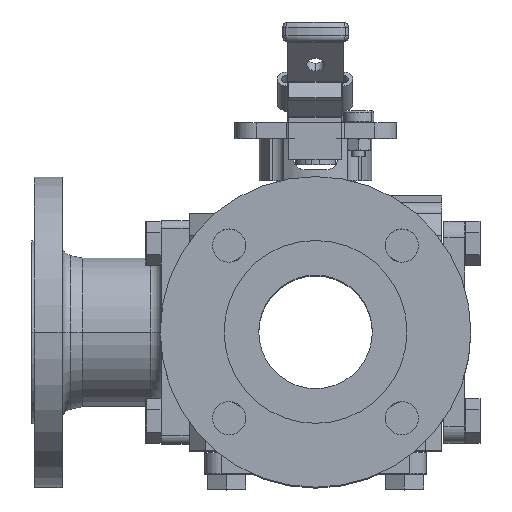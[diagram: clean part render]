
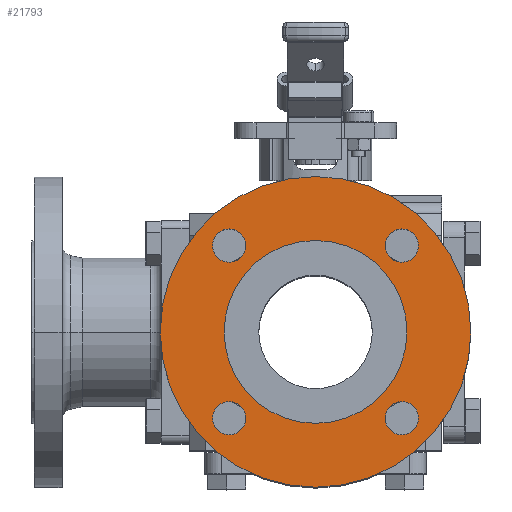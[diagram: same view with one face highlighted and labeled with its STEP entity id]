
A CAD part, top view. The second image highlights one B-rep face of the part: STEP entity #21793.
In plain terms, the highlighted planar face has unit normal (0, 0, 1).
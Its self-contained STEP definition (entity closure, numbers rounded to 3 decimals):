
#139 = EDGE_CURVE ( 'NONE', #6974, #4838, #20716, .T. ) ;
#187 = EDGE_LOOP ( 'NONE', ( #4512, #22926 ) ) ;
#482 = DIRECTION ( 'NONE',  ( 1., 0., 0. ) ) ;
#709 = DIRECTION ( 'NONE',  ( 1., 0., 0. ) ) ;
#876 = DIRECTION ( 'NONE',  ( -1., 0., 0. ) ) ;
#910 = DIRECTION ( 'NONE',  ( -1., 0., 0. ) ) ;
#1468 = EDGE_LOOP ( 'NONE', ( #24652, #24039 ) ) ;
#1714 = DIRECTION ( 'NONE',  ( 0., -1., 0. ) ) ;
#1812 = FACE_BOUND ( 'NONE', #187, .T. ) ;
#2224 = DIRECTION ( 'NONE',  ( 0., 0., 1. ) ) ;
#2371 = PLANE ( 'NONE',  #14841 ) ;
#2429 = CIRCLE ( 'NONE', #21992, 9.525 ) ;
#2507 = CIRCLE ( 'NONE', #18002, 9.525 ) ;
#2590 = CARTESIAN_POINT ( 'NONE',  ( 0., 0., 161.036 ) ) ;
#2842 = AXIS2_PLACEMENT_3D ( 'NONE', #7145, #19392, #482 ) ;
#3507 = DIRECTION ( 'NONE',  ( 0., 0., 1. ) ) ;
#3822 = AXIS2_PLACEMENT_3D ( 'NONE', #26217, #21498, #23609 ) ;
#4503 = EDGE_CURVE ( 'NONE', #9322, #26296, #9578, .T. ) ;
#4512 = ORIENTED_EDGE ( 'NONE', *, *, #4503, .F. ) ;
#4573 = AXIS2_PLACEMENT_3D ( 'NONE', #24585, #13691, #910 ) ;
#4680 = VERTEX_POINT ( 'NONE', #7270 ) ;
#4717 = VERTEX_POINT ( 'NONE', #25269 ) ;
#4763 = DIRECTION ( 'NONE',  ( 0., 0., 1. ) ) ;
#4838 = VERTEX_POINT ( 'NONE', #15023 ) ;
#4950 = DIRECTION ( 'NONE',  ( 0., 0., 1. ) ) ;
#5179 = CARTESIAN_POINT ( 'NONE',  ( -49.391, -49.391, 161.036 ) ) ;
#5709 = DIRECTION ( 'NONE',  ( 0., 0., 1. ) ) ;
#5935 = CIRCLE ( 'NONE', #2842, 52.324 ) ;
#6075 = CIRCLE ( 'NONE', #23891, 9.525 ) ;
#6652 = DIRECTION ( 'NONE',  ( 0., 0., 1. ) ) ;
#6847 = DIRECTION ( 'NONE',  ( 1., 0., 0. ) ) ;
#6965 = CARTESIAN_POINT ( 'NONE',  ( 49.391, 49.391, 161.036 ) ) ;
#6974 = VERTEX_POINT ( 'NONE', #24776 ) ;
#7016 = AXIS2_PLACEMENT_3D ( 'NONE', #25098, #14864, #16656 ) ;
#7075 = CARTESIAN_POINT ( 'NONE',  ( 49.391, 49.391, 161.036 ) ) ;
#7145 = CARTESIAN_POINT ( 'NONE',  ( 0., 0., 161.036 ) ) ;
#7270 = CARTESIAN_POINT ( 'NONE',  ( 52.324, 0., 161.036 ) ) ;
#7986 = EDGE_CURVE ( 'NONE', #10458, #26331, #16576, .T. ) ;
#8317 = DIRECTION ( 'NONE',  ( 1., 0., 0. ) ) ;
#8943 = DIRECTION ( 'NONE',  ( 0., 0., 1. ) ) ;
#9179 = CARTESIAN_POINT ( 'NONE',  ( -52.324, 0., 161.036 ) ) ;
#9200 = AXIS2_PLACEMENT_3D ( 'NONE', #6965, #4763, #19336 ) ;
#9322 = VERTEX_POINT ( 'NONE', #13842 ) ;
#9459 = EDGE_CURVE ( 'NONE', #4680, #12984, #5935, .T. ) ;
#9578 = CIRCLE ( 'NONE', #3822, 9.525 ) ;
#9846 = FACE_BOUND ( 'NONE', #10269, .T. ) ;
#10268 = CARTESIAN_POINT ( 'NONE',  ( 88.9, 0., 161.036 ) ) ;
#10269 = EDGE_LOOP ( 'NONE', ( #19667, #23913 ) ) ;
#10458 = VERTEX_POINT ( 'NONE', #10268 ) ;
#10528 = CARTESIAN_POINT ( 'NONE',  ( -58.916, 49.391, 161.036 ) ) ;
#10917 = CARTESIAN_POINT ( 'NONE',  ( -49.391, 49.391, 161.036 ) ) ;
#11701 = AXIS2_PLACEMENT_3D ( 'NONE', #20445, #5709, #11826 ) ;
#11826 = DIRECTION ( 'NONE',  ( 1., 0., 0. ) ) ;
#12071 = EDGE_CURVE ( 'NONE', #26296, #9322, #2507, .T. ) ;
#12293 = CIRCLE ( 'NONE', #9200, 9.525 ) ;
#12393 = DIRECTION ( 'NONE',  ( 0., 0., 1. ) ) ;
#12984 = VERTEX_POINT ( 'NONE', #9179 ) ;
#13691 = DIRECTION ( 'NONE',  ( 0., 0., 1. ) ) ;
#13842 = CARTESIAN_POINT ( 'NONE',  ( -39.866, 49.391, 161.036 ) ) ;
#13887 = FACE_BOUND ( 'NONE', #19537, .T. ) ;
#14317 = CIRCLE ( 'NONE', #4573, 9.525 ) ;
#14806 = EDGE_LOOP ( 'NONE', ( #23158, #25438 ) ) ;
#14841 = AXIS2_PLACEMENT_3D ( 'NONE', #25634, #27527, #19147 ) ;
#14864 = DIRECTION ( 'NONE',  ( 0., 0., 1. ) ) ;
#14886 = CARTESIAN_POINT ( 'NONE',  ( 39.866, -49.391, 161.036 ) ) ;
#15023 = CARTESIAN_POINT ( 'NONE',  ( -58.916, -49.391, 161.036 ) ) ;
#15457 = EDGE_CURVE ( 'NONE', #12984, #4680, #20607, .T. ) ;
#16576 = CIRCLE ( 'NONE', #11701, 88.9 ) ;
#16656 = DIRECTION ( 'NONE',  ( 0., -1., 0. ) ) ;
#17352 = CARTESIAN_POINT ( 'NONE',  ( 58.916, -49.391, 161.036 ) ) ;
#17584 = AXIS2_PLACEMENT_3D ( 'NONE', #5179, #3507, #876 ) ;
#17741 = EDGE_CURVE ( 'NONE', #25314, #19399, #19438, .T. ) ;
#18002 = AXIS2_PLACEMENT_3D ( 'NONE', #10917, #4950, #23919 ) ;
#18377 = CARTESIAN_POINT ( 'NONE',  ( 49.391, -49.391, 161.036 ) ) ;
#18745 = FACE_BOUND ( 'NONE', #21254, .T. ) ;
#18964 = VERTEX_POINT ( 'NONE', #21082 ) ;
#19147 = DIRECTION ( 'NONE',  ( 1., 0., 0. ) ) ;
#19336 = DIRECTION ( 'NONE',  ( 1., 0., 0. ) ) ;
#19392 = DIRECTION ( 'NONE',  ( 0., 0., 1. ) ) ;
#19399 = VERTEX_POINT ( 'NONE', #14886 ) ;
#19438 = CIRCLE ( 'NONE', #7016, 9.525 ) ;
#19537 = EDGE_LOOP ( 'NONE', ( #24536, #23477 ) ) ;
#19667 = ORIENTED_EDGE ( 'NONE', *, *, #15457, .F. ) ;
#20421 = FACE_OUTER_BOUND ( 'NONE', #1468, .T. ) ;
#20445 = CARTESIAN_POINT ( 'NONE',  ( 0., 0., 161.036 ) ) ;
#20607 = CIRCLE ( 'NONE', #25541, 52.324 ) ;
#20716 = CIRCLE ( 'NONE', #17584, 9.525 ) ;
#20871 = FACE_BOUND ( 'NONE', #14806, .T. ) ;
#21017 = EDGE_CURVE ( 'NONE', #4838, #6974, #14317, .T. ) ;
#21082 = CARTESIAN_POINT ( 'NONE',  ( 39.866, 49.391, 161.036 ) ) ;
#21131 = CARTESIAN_POINT ( 'NONE',  ( -88.9, 0., 161.036 ) ) ;
#21254 = EDGE_LOOP ( 'NONE', ( #26230, #26150 ) ) ;
#21498 = DIRECTION ( 'NONE',  ( 0., 0., 1. ) ) ;
#21793 = ADVANCED_FACE ( 'NONE', ( #20871, #13887, #1812, #18745, #20421, #9846 ), #2371, .T. ) ;
#21992 = AXIS2_PLACEMENT_3D ( 'NONE', #18377, #12393, #1714 ) ;
#22498 = CIRCLE ( 'NONE', #26044, 88.9 ) ;
#22536 = EDGE_CURVE ( 'NONE', #4717, #18964, #6075, .T. ) ;
#22926 = ORIENTED_EDGE ( 'NONE', *, *, #12071, .F. ) ;
#23158 = ORIENTED_EDGE ( 'NONE', *, *, #17741, .F. ) ;
#23477 = ORIENTED_EDGE ( 'NONE', *, *, #21017, .F. ) ;
#23609 = DIRECTION ( 'NONE',  ( 0., 1., 0. ) ) ;
#23891 = AXIS2_PLACEMENT_3D ( 'NONE', #7075, #6652, #709 ) ;
#23913 = ORIENTED_EDGE ( 'NONE', *, *, #9459, .F. ) ;
#23919 = DIRECTION ( 'NONE',  ( 0., 1., 0. ) ) ;
#24039 = ORIENTED_EDGE ( 'NONE', *, *, #7986, .T. ) ;
#24346 = EDGE_CURVE ( 'NONE', #26331, #10458, #22498, .T. ) ;
#24536 = ORIENTED_EDGE ( 'NONE', *, *, #139, .F. ) ;
#24585 = CARTESIAN_POINT ( 'NONE',  ( -49.391, -49.391, 161.036 ) ) ;
#24652 = ORIENTED_EDGE ( 'NONE', *, *, #24346, .T. ) ;
#24776 = CARTESIAN_POINT ( 'NONE',  ( -39.866, -49.391, 161.036 ) ) ;
#25098 = CARTESIAN_POINT ( 'NONE',  ( 49.391, -49.391, 161.036 ) ) ;
#25206 = EDGE_CURVE ( 'NONE', #19399, #25314, #2429, .T. ) ;
#25269 = CARTESIAN_POINT ( 'NONE',  ( 58.916, 49.391, 161.036 ) ) ;
#25314 = VERTEX_POINT ( 'NONE', #17352 ) ;
#25438 = ORIENTED_EDGE ( 'NONE', *, *, #25206, .F. ) ;
#25541 = AXIS2_PLACEMENT_3D ( 'NONE', #27510, #2224, #8317 ) ;
#25634 = CARTESIAN_POINT ( 'NONE',  ( 0., 0., 161.036 ) ) ;
#26044 = AXIS2_PLACEMENT_3D ( 'NONE', #2590, #8943, #6847 ) ;
#26150 = ORIENTED_EDGE ( 'NONE', *, *, #26848, .F. ) ;
#26217 = CARTESIAN_POINT ( 'NONE',  ( -49.391, 49.391, 161.036 ) ) ;
#26230 = ORIENTED_EDGE ( 'NONE', *, *, #22536, .F. ) ;
#26296 = VERTEX_POINT ( 'NONE', #10528 ) ;
#26331 = VERTEX_POINT ( 'NONE', #21131 ) ;
#26848 = EDGE_CURVE ( 'NONE', #18964, #4717, #12293, .T. ) ;
#27510 = CARTESIAN_POINT ( 'NONE',  ( 0., 0., 161.036 ) ) ;
#27527 = DIRECTION ( 'NONE',  ( 0., 0., 1. ) ) ;
